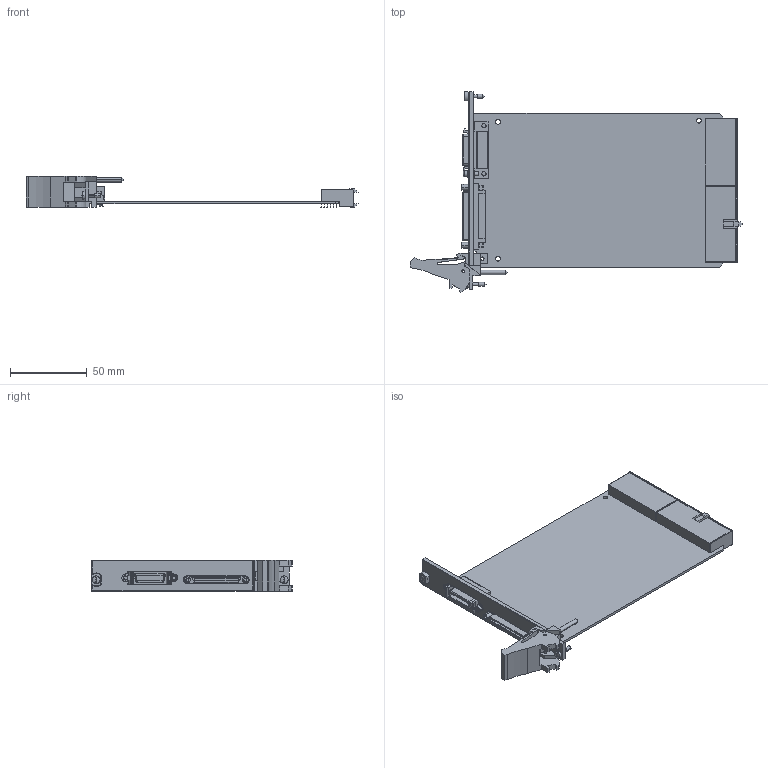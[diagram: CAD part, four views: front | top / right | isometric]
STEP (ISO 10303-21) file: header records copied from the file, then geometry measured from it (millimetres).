
FILE_DESCRIPTION((''),'2;1');
FILE_NAME('CU_PXI-1428','2011-08-16T',('dkendric'),(''),'PRO/ENGINEER BY PARAMETRIC TECHNOLOGY CORPORATION, 2010230','PRO/ENGINEER BY PARAMETRIC TECHNOLOGY CORPORATION, 2010230','');
FILE_SCHEMA(('CONFIG_CONTROL_DESIGN'));
Length unit declared in the file: inch
Products named in the file (1): CU_PXI-1428
Bounding box: 216.08 x 130.62 x 20.19 mm (x, y, z)
Volume: 61050.4 mm3; surface area: 52577.7 mm2
Topology: 1 solids, 1 shells, 710 faces, 1870 edges, 1221 vertices
Faces by surface type: plane 459, cylinder 217, cone 18, torus 12, sphere 4
Entity records: 22071 total; most frequent: CARTESIAN_POINT 3958, DIRECTION 3775, ORIENTED_EDGE 3732, EDGE_CURVE 1866, VECTOR 1351, LINE 1351, VERTEX_POINT 1221, AXIS2_PLACEMENT_3D 1212
